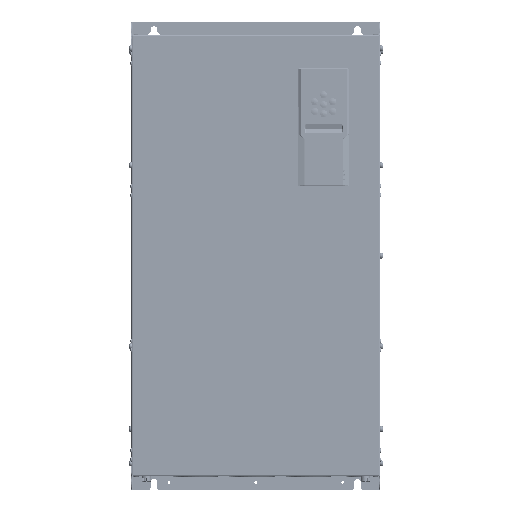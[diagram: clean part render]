
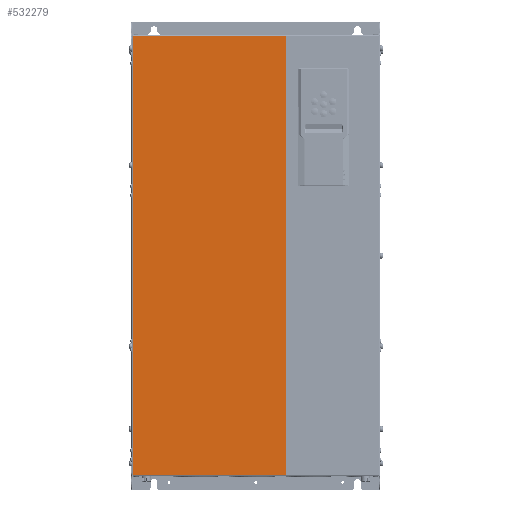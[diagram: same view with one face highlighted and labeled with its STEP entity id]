
A CAD part, top view. The second image highlights one B-rep face of the part: STEP entity #532279.
In plain terms, the highlighted planar face has unit normal (0, 0, 1).
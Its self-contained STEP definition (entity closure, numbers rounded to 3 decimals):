
#529351=DIRECTION('',(0.,1.,0.));
#529352=VECTOR('',#529351,581.);
#529353=CARTESIAN_POINT('',(-163.,-0.5,140.));
#529354=LINE('',#529353,#529352);
#530541=DIRECTION('',(0.,-1.,0.));
#530542=VECTOR('',#530541,581.);
#530543=CARTESIAN_POINT('',(40.,580.5,140.));
#530544=LINE('',#530543,#530542);
#530548=DIRECTION('',(-1.,0.,0.));
#530549=VECTOR('',#530548,203.);
#530550=CARTESIAN_POINT('',(40.,-0.5,140.));
#530551=LINE('',#530550,#530549);
#530555=DIRECTION('',(-1.,0.,0.));
#530556=VECTOR('',#530555,203.);
#530557=CARTESIAN_POINT('',(40.,580.5,140.));
#530558=LINE('',#530557,#530556);
#530678=CARTESIAN_POINT('',(40.,580.5,140.));
#530679=CARTESIAN_POINT('',(40.,-0.5,140.));
#530680=VERTEX_POINT('',#530678);
#530681=VERTEX_POINT('',#530679);
#530838=CARTESIAN_POINT('',(-163.,580.5,140.));
#530839=VERTEX_POINT('',#530838);
#530843=CARTESIAN_POINT('',(-163.,-0.5,140.));
#530845=VERTEX_POINT('',#530843);
#532268=CARTESIAN_POINT('',(-164.5,582.,140.));
#532269=DIRECTION('',(0.,0.,1.));
#532270=DIRECTION('',(0.,-1.,0.));
#532271=AXIS2_PLACEMENT_3D('',#532268,#532269,#532270);
#532272=PLANE('',#532271);
#532273=ORIENTED_EDGE('',*,*,#532260,.T.);
#532274=ORIENTED_EDGE('',*,*,#532191,.T.);
#532275=ORIENTED_EDGE('',*,*,#531242,.T.);
#532276=ORIENTED_EDGE('',*,*,#532243,.F.);
#532277=EDGE_LOOP('',(#532273,#532274,#532275,#532276));
#532278=FACE_OUTER_BOUND('',#532277,.F.);
#532279=ADVANCED_FACE('',(#532278),#532272,.T.);
#531242=EDGE_CURVE('',#530845,#530839,#529354,.T.);
#532191=EDGE_CURVE('',#530681,#530845,#530551,.T.);
#532243=EDGE_CURVE('',#530680,#530839,#530558,.T.);
#532260=EDGE_CURVE('',#530680,#530681,#530544,.T.);
